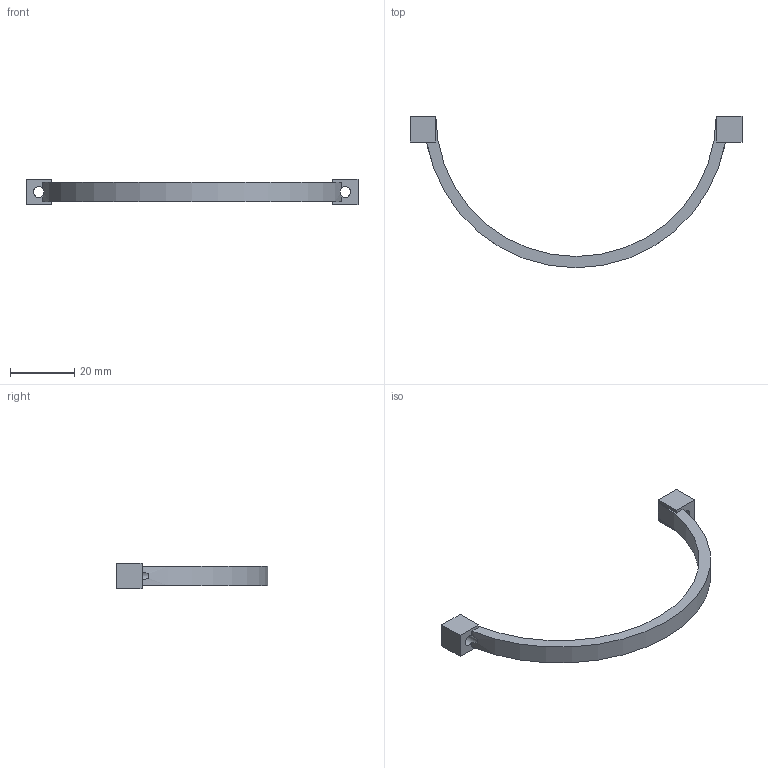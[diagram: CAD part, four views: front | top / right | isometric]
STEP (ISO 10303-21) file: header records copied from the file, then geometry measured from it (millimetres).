
FILE_DESCRIPTION(('FreeCAD Model'),'2;1');
FILE_NAME('Open CASCADE Shape Model','2026-10-31T13:49:49',('FreeCAD'),( 'FreeCAD'),'Open CASCADE STEP processor 7.8','FreeCAD','Unknown');
FILE_SCHEMA(('AUTOMOTIVE_DESIGN { 1 0 10303 214 1 1 1 1 }'));
Length unit declared in the file: millimetre
Products named in the file (1): Open CASCADE STEP translator 7.8 10
Bounding box: 103 x 47 x 8 mm (x, y, z)
Volume: 3548.1 mm3; surface area: 3275 mm2
Topology: 1 solids, 1 shells, 24 faces, 74 edges, 48 vertices
Faces by surface type: plane 20, cylinder 4
Full cylindrical faces by diameter (mm): 3.4 x2
Entity records: 876 total; most frequent: CARTESIAN_POINT 191, ORIENTED_EDGE 148, DIRECTION 136, EDGE_CURVE 74, LINE 54, VECTOR 54, VERTEX_POINT 48, AXIS2_PLACEMENT_3D 41
